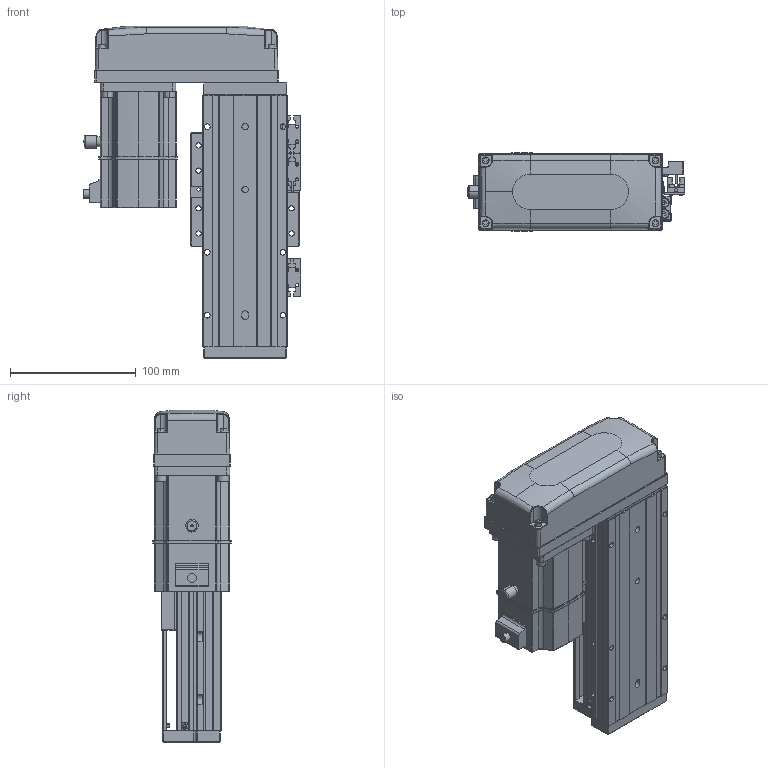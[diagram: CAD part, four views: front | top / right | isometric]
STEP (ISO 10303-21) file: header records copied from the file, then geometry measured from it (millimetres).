
FILE_DESCRIPTION (( 'STEP AP203' ), '1' );
FILE_NAME ('KTHAL60-50-BR-M20-C4L.step', '2022-12-16T02:15:35', ( '微软用户' ), ( '微软中国' ), 'SwSTEP 2.0', 'SolidWorks 2020', '' );
FILE_SCHEMA (( 'CONFIG_CONTROL_DESIGN' ));
Length unit declared in the file: millimetre
Products named in the file (17): KTHA60-004; GBT 70.1-M4×16; KTHAL60-50-BR-M20-C4L; KTHA60-005; GBT77-2000M3-3; GB¨uT 70.2-M3¡Á5_M3¡Á6; GBT 70.1-M3℅6; GBT 70.3-M3℅6; CTHA60-016; EE_SX911P_R; _X2_4E0983F1_X0_200W_1; KTHA60-001_200; CTHA60-017; CTHA60-015-4_CTHA60-015-4; KTHLA60-002; CTHA60-021; GTH80-026
Assembly tree (45 placements, depth 2):
  KTHAL60-50-BR-M20-C4L
    KTHA60-001_200
    KTHLA60-002
    KTHA60-004
    KTHA60-005
    GB¨uT 70.2-M3¡Á5_M3¡Á6  x5
    GBT 70.3-M3℅6  x4
    EE_SX911P_R  x3
    CTHA60-017  x3
    CTHA60-021  x2
    GBT 70.1-M4×16  x8
    GBT77-2000M3-3  x6
    GBT 70.1-M3℅6  x6
    CTHA60-016
    _X2_4E0983F1_X0_200W_1
    CTHA60-015-4_CTHA60-015-4
    GTH80-026
Bounding box: 173.02 x 62.42 x 264 mm (x, y, z)
Volume: 1186006 mm3; surface area: 228184.8 mm2
Topology: 48 solids, 48 shells, 2271 faces, 5380 edges, 3301 vertices
Faces by surface type: plane 1211, cylinder 599, cone 262, bspline 103, torus 82, sphere 14
Entity records: 43309 total; most frequent: CARTESIAN_POINT 9818, DIRECTION 6481, ORIENTED_EDGE 6384, EDGE_CURVE 3192, AXIS2_PLACEMENT_3D 2248, VERTEX_POINT 1985, VECTOR 1985, LINE 1985
